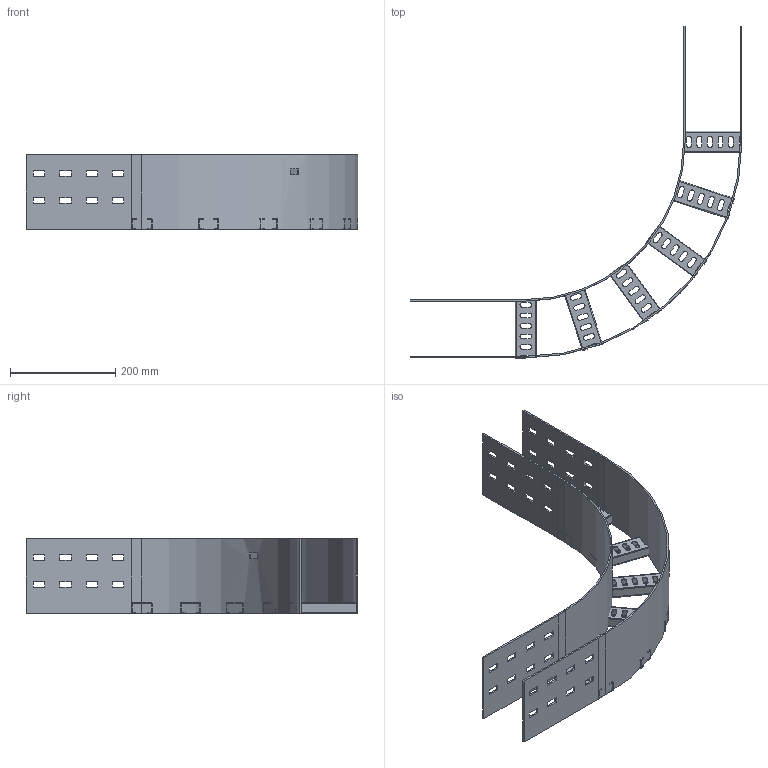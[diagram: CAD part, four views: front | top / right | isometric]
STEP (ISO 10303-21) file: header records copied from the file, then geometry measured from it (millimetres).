
FILE_DESCRIPTION(/* description */ ('','CAx-IF Rec.Pracs.---Representation and Presentation of Product Manufacturing Information (PMI)---4.0---2014-10-13'),/* implementation_level */ '2;1');
FILE_NAME(/* name */ 'Eurostrut_EFB150-90-100-300_Bend 90 for Cable Ladder ECL.step',/* time_stamp */ '2026-09-07T12:13:12+02:00',/* author */ (''),/* organization */ (''),/* preprocessor_version */ 'ST-DEVELOPER v20.1',/* originating_system */ 'Autodesk Revit 2027 27.2.0.39',/* authorisation */ '');
FILE_SCHEMA (('AP242_MANAGED_MODEL_BASED_3D_ENGINEERING_MIM_LF { 1 0 10303 442 2 1 4 }'));
Length unit declared in the file: millimetre
Products named in the file (6): TopLevelAssembly; Sweep; Extrusion; Extrusion_1; Eurostrut_Cable Ladder_Rung_Horizontal Bend_With slots; Eurostrut_Cable Ladder_Accessory End SWEEP
Assembly tree (8 placements, depth 2):
  TopLevelAssembly
    Sweep
    Extrusion
    Extrusion_1
    Eurostrut_Cable Ladder_Rung_Horizontal Bend_With slots
    Eurostrut_Cable Ladder_Accessory End SWEEP  x4
Bounding box: 631 x 631 x 142 mm (x, y, z)
Volume: 907452.1 mm3; surface area: 692662.6 mm2
Topology: 16 solids, 16 shells, 448 faces, 1248 edges, 832 vertices
Faces by surface type: plane 348, bspline 72, cylinder 28
Entity records: 12852 total; most frequent: CARTESIAN_POINT 4024, ORIENTED_EDGE 1848, DIRECTION 1684, EDGE_CURVE 924, LINE 716, VECTOR 716, VERTEX_POINT 616, AXIS2_PLACEMENT_3D 484
